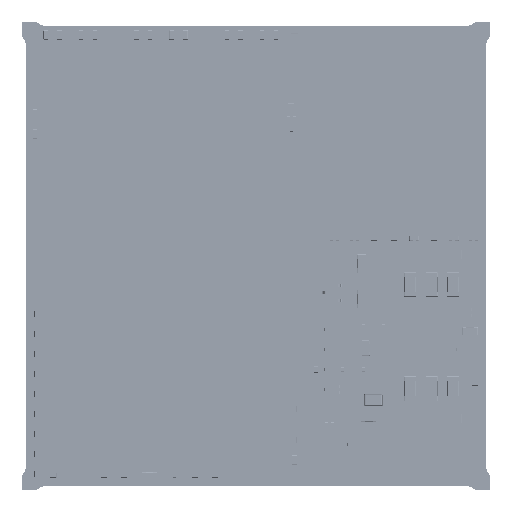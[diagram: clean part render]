
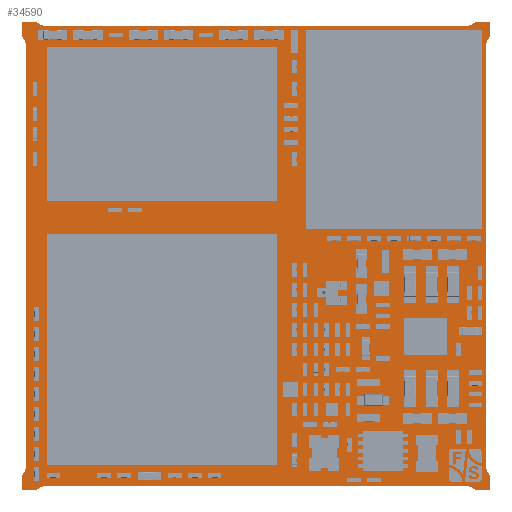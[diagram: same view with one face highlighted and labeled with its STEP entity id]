
A CAD part, top view. The second image highlights one B-rep face of the part: STEP entity #34590.
In plain terms, the highlighted planar face has unit normal (0, 0, 1).
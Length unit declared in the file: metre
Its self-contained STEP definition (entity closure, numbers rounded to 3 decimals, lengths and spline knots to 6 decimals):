
#34590=ADVANCED_FACE('0:26',(#61114),#61115,.T.);
#61114=FACE_OUTER_BOUND('',#91279,.T.);
#61115=PLANE('',#91280);
#91279=EDGE_LOOP('',(#122591,#122592,#122593,#122594,#122595,#122596,#122597,#122598,#122599,#122600,#122601,#122602,#122603,#122604,#122605,#122606,#122607,#122608,#122609,#122610));
#91280=AXIS2_PLACEMENT_3D('',#122611,#122612,#122613);
#122591=ORIENTED_EDGE('',*,*,#125832,.T.);
#122592=ORIENTED_EDGE('',*,*,#125794,.T.);
#122593=ORIENTED_EDGE('',*,*,#125799,.T.);
#122594=ORIENTED_EDGE('',*,*,#125833,.T.);
#122595=ORIENTED_EDGE('',*,*,#125834,.T.);
#122596=ORIENTED_EDGE('',*,*,#125823,.T.);
#122597=ORIENTED_EDGE('',*,*,#125835,.T.);
#122598=ORIENTED_EDGE('',*,*,#125836,.T.);
#122599=ORIENTED_EDGE('',*,*,#125837,.T.);
#122600=ORIENTED_EDGE('',*,*,#125838,.T.);
#122601=ORIENTED_EDGE('',*,*,#125789,.T.);
#122602=ORIENTED_EDGE('',*,*,#125781,.T.);
#122603=ORIENTED_EDGE('',*,*,#125786,.T.);
#122604=ORIENTED_EDGE('',*,*,#125839,.T.);
#122605=ORIENTED_EDGE('',*,*,#125840,.T.);
#122606=ORIENTED_EDGE('',*,*,#125841,.T.);
#122607=ORIENTED_EDGE('',*,*,#125827,.T.);
#122608=ORIENTED_EDGE('',*,*,#125830,.T.);
#122609=ORIENTED_EDGE('',*,*,#125819,.T.);
#122610=ORIENTED_EDGE('',*,*,#125842,.T.);
#122611=CARTESIAN_POINT('',(0.002201,0.004052,0.001222));
#122612=DIRECTION('',(0.0,0.0,1.0));
#122613=DIRECTION('',(1.0,0.0,0.0));
#125781=EDGE_CURVE('0:137',#129056,#129054,#129057,.T.);
#125786=EDGE_CURVE('0:131',#129054,#129063,#129065,.T.);
#125789=EDGE_CURVE('0:143',#129068,#129056,#129069,.T.);
#125794=EDGE_CURVE('0:197',#129077,#129075,#129078,.T.);
#125799=EDGE_CURVE('0:191',#129075,#129084,#129086,.T.);
#125819=EDGE_CURVE('0:95',#129120,#129118,#129121,.T.);
#125823=EDGE_CURVE('0:173',#129126,#129124,#129127,.T.);
#125827=EDGE_CURVE('0:107',#129132,#129130,#129133,.T.);
#125830=EDGE_CURVE('0:101',#129130,#129120,#129136,.T.);
#125832=EDGE_CURVE('0:203',#129138,#129077,#129139,.T.);
#125833=EDGE_CURVE('0:185',#129084,#129140,#129141,.T.);
#125834=EDGE_CURVE('0:179',#129140,#129126,#129142,.T.);
#125835=EDGE_CURVE('0:167',#129124,#129143,#129144,.T.);
#125836=EDGE_CURVE('0:161',#129143,#129145,#129146,.T.);
#125837=EDGE_CURVE('0:155',#129145,#129147,#129148,.T.);
#125838=EDGE_CURVE('0:149',#129147,#129068,#129149,.T.);
#125839=EDGE_CURVE('0:125',#129063,#129150,#129151,.T.);
#125840=EDGE_CURVE('0:119',#129150,#129152,#129153,.T.);
#125841=EDGE_CURVE('0:113',#129152,#129132,#129154,.T.);
#125842=EDGE_CURVE('0:89',#129118,#129138,#129155,.T.);
#129054=VERTEX_POINT('',#132574);
#129056=VERTEX_POINT('',#132577);
#129057=LINE('',#132578,#132579);
#129063=VERTEX_POINT('',#132587);
#129065=CIRCLE('',#132590,0.000799);
#129068=VERTEX_POINT('',#132593);
#129069=LINE('',#132594,#132595);
#129075=VERTEX_POINT('',#132603);
#129077=VERTEX_POINT('',#132606);
#129078=LINE('',#132607,#132608);
#129084=VERTEX_POINT('',#132616);
#129086=CIRCLE('',#132619,0.000799);
#129118=VERTEX_POINT('',#132660);
#129120=VERTEX_POINT('',#132663);
#129121=LINE('',#132664,#132665);
#129124=VERTEX_POINT('',#132669);
#129126=VERTEX_POINT('',#132672);
#129127=LINE('',#132673,#132674);
#129130=VERTEX_POINT('',#132678);
#129132=VERTEX_POINT('',#132681);
#129133=LINE('',#132682,#132683);
#129136=CIRCLE('',#132687,0.000799);
#129138=VERTEX_POINT('',#132689);
#129139=LINE('',#132690,#132691);
#129140=VERTEX_POINT('',#132692);
#129141=LINE('',#132693,#132694);
#129142=CIRCLE('',#132695,0.000799);
#129143=VERTEX_POINT('',#132696);
#129144=LINE('',#132697,#132698);
#129145=VERTEX_POINT('',#132699);
#129146=CIRCLE('',#132700,0.000799);
#129147=VERTEX_POINT('',#132701);
#129148=LINE('',#132702,#132703);
#129149=CIRCLE('',#132704,0.000799);
#129150=VERTEX_POINT('',#132705);
#129151=LINE('',#132706,#132707);
#129152=VERTEX_POINT('',#132708);
#129153=CIRCLE('',#132709,0.000799);
#129154=LINE('',#132710,#132711);
#129155=CIRCLE('',#132712,0.000799);
#132574=CARTESIAN_POINT('',(0.032278,0.033,0.001222));
#132577=CARTESIAN_POINT('',(0.03325,0.033,0.001222));
#132578=CARTESIAN_POINT('',(0.032278,0.033,0.001222));
#132579=VECTOR('',#133325,1.0);
#132587=CARTESIAN_POINT('',(0.0317,0.03275,0.001222));
#132590=AXIS2_PLACEMENT_3D('',#133329,#133330,#133331);
#132593=CARTESIAN_POINT('',(0.03325,0.032029,0.001222));
#132594=CARTESIAN_POINT('',(0.03325,0.033,0.001222));
#132595=VECTOR('',#133335,1.0);
#132603=CARTESIAN_POINT('',(0.003721,0.0025,0.001222));
#132606=CARTESIAN_POINT('',(0.00275,0.0025,0.001222));
#132607=CARTESIAN_POINT('',(0.003721,0.0025,0.001222));
#132608=VECTOR('',#133339,1.0);
#132616=CARTESIAN_POINT('',(0.0043,0.00275,0.001222));
#132619=AXIS2_PLACEMENT_3D('',#133343,#133344,#133345);
#132660=CARTESIAN_POINT('',(0.003,0.00405,0.001222));
#132663=CARTESIAN_POINT('',(0.003,0.03145,0.001222));
#132664=CARTESIAN_POINT('',(0.003,0.00405,0.001222));
#132665=VECTOR('',#133377,1.0);
#132669=CARTESIAN_POINT('',(0.03325,0.0025,0.001222));
#132672=CARTESIAN_POINT('',(0.032278,0.0025,0.001222));
#132673=CARTESIAN_POINT('',(0.03325,0.0025,0.001222));
#132674=VECTOR('',#133380,1.0);
#132678=CARTESIAN_POINT('',(0.00275,0.032028,0.001222));
#132681=CARTESIAN_POINT('',(0.00275,0.033,0.001222));
#132682=CARTESIAN_POINT('',(0.00275,0.032028,0.001222));
#132683=VECTOR('',#133383,1.0);
#132687=AXIS2_PLACEMENT_3D('',#133385,#133386,#133387);
#132689=CARTESIAN_POINT('',(0.00275,0.003472,0.001222));
#132690=CARTESIAN_POINT('',(0.00275,0.0025,0.001222));
#132691=VECTOR('',#133388,1.0);
#132692=CARTESIAN_POINT('',(0.0317,0.00275,0.001222));
#132693=CARTESIAN_POINT('',(0.0317,0.00275,0.001222));
#132694=VECTOR('',#133389,1.0);
#132695=AXIS2_PLACEMENT_3D('',#133390,#133391,#133392);
#132696=CARTESIAN_POINT('',(0.03325,0.003472,0.001222));
#132697=CARTESIAN_POINT('',(0.03325,0.003472,0.001222));
#132698=VECTOR('',#133393,1.0);
#132699=CARTESIAN_POINT('',(0.033,0.00405,0.001222));
#132700=AXIS2_PLACEMENT_3D('',#133394,#133395,#133396);
#132701=CARTESIAN_POINT('',(0.033,0.03145,0.001222));
#132702=CARTESIAN_POINT('',(0.033,0.03145,0.001222));
#132703=VECTOR('',#133397,1.0);
#132704=AXIS2_PLACEMENT_3D('',#133398,#133399,#133400);
#132705=CARTESIAN_POINT('',(0.0043,0.03275,0.001222));
#132706=CARTESIAN_POINT('',(0.0043,0.03275,0.001222));
#132707=VECTOR('',#133401,1.0);
#132708=CARTESIAN_POINT('',(0.003721,0.033,0.001222));
#132709=AXIS2_PLACEMENT_3D('',#133402,#133403,#133404);
#132710=CARTESIAN_POINT('',(0.00275,0.033,0.001222));
#132711=VECTOR('',#133405,1.0);
#132712=AXIS2_PLACEMENT_3D('',#133406,#133407,#133408);
#133325=DIRECTION('',(-1.0,0.,-0.0));
#133329=CARTESIAN_POINT('',(0.031698,0.033549,0.001222));
#133330=DIRECTION('',(0.0,-0.0,-1.0));
#133331=DIRECTION('',(0.003,-1.,0.0));
#133335=DIRECTION('',(0.,1.0,-0.0));
#133339=DIRECTION('',(1.0,0.,-0.0));
#133343=CARTESIAN_POINT('',(0.004302,0.001951,0.001222));
#133344=DIRECTION('',(-0.0,0.0,-1.0));
#133345=DIRECTION('',(-0.002,1.,0.0));
#133377=DIRECTION('',(0.,-1.0,-0.0));
#133380=DIRECTION('',(1.0,0.,-0.0));
#133383=DIRECTION('',(0.,-1.0,-0.0));
#133385=CARTESIAN_POINT('',(0.002201,0.031448,0.001222));
#133386=DIRECTION('',(0.0,0.0,-1.0));
#133387=DIRECTION('',(1.,0.003,0.0));
#133388=DIRECTION('',(0.,-1.0,-0.0));
#133389=DIRECTION('',(1.0,0.,-0.0));
#133390=CARTESIAN_POINT('',(0.031698,0.001951,0.001222));
#133391=DIRECTION('',(0.0,0.0,-1.0));
#133392=DIRECTION('',(0.727,0.687,0.0));
#133393=DIRECTION('',(0.,1.0,-0.0));
#133394=CARTESIAN_POINT('',(0.033799,0.004052,0.001222));
#133395=DIRECTION('',(-0.0,0.0,-1.0));
#133396=DIRECTION('',(-1.,-0.003,0.0));
#133397=DIRECTION('',(0.,1.0,-0.0));
#133398=CARTESIAN_POINT('',(0.033799,0.031448,0.001222));
#133399=DIRECTION('',(-0.0,0.0,-1.0));
#133400=DIRECTION('',(-0.687,0.726,0.0));
#133401=DIRECTION('',(-1.0,0.,-0.0));
#133402=CARTESIAN_POINT('',(0.004302,0.033549,0.001222));
#133403=DIRECTION('',(-0.0,0.0,-1.0));
#133404=DIRECTION('',(-0.726,-0.687,0.0));
#133405=DIRECTION('',(-1.0,0.,-0.0));
#133406=CARTESIAN_POINT('',(0.002201,0.004052,0.001222));
#133407=DIRECTION('',(0.0,-0.0,-1.0));
#133408=DIRECTION('',(0.687,-0.727,0.0));
